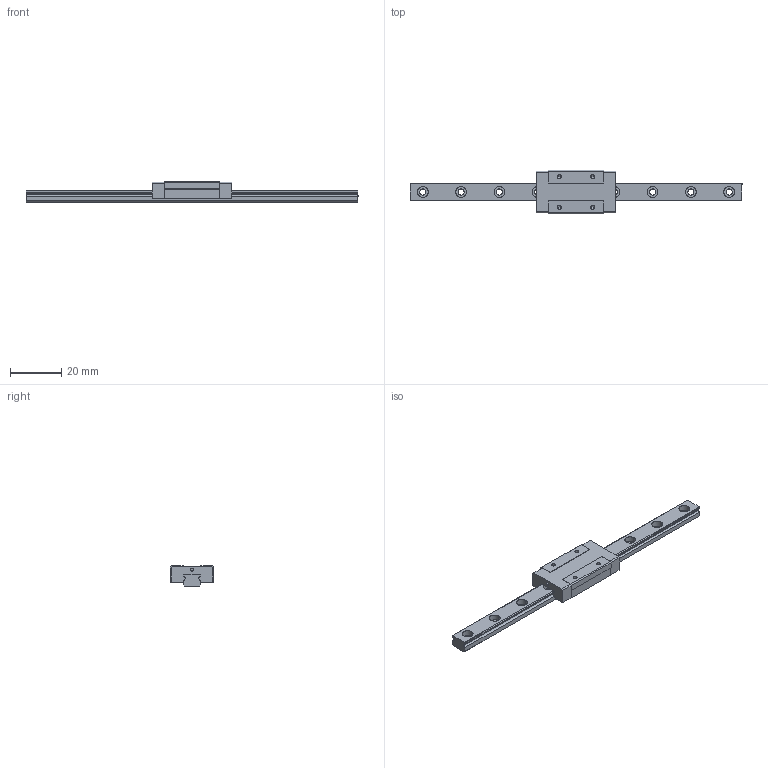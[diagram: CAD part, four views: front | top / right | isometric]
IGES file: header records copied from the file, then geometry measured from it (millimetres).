
Global section: file name: No Iges File Name specified; native system: AutoDesk Inventor R11.0; preprocessor: AutoDesk Inventor Iges Exporter R11.0; author: No Author specified; organization: No Organization specified; date: 20150221.131151; units: millimetre
Bounding box: 130 x 17 x 8 mm (x, y, z)
Surface area: 5651.1 mm2 (no closed solid volume)
Topology: 0 solids, 0 shells, 129 faces, 880 edges, 872 vertices
Faces by surface type: bspline 129
